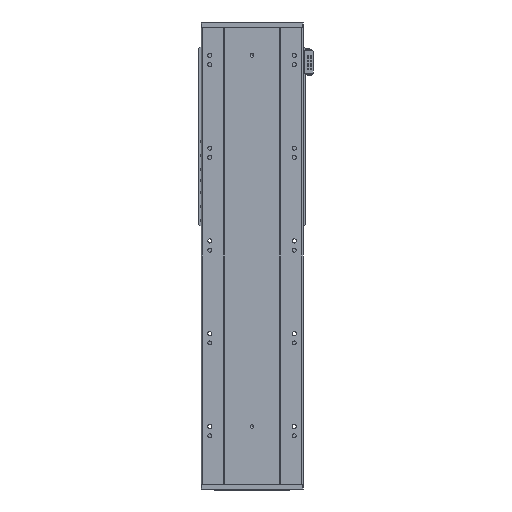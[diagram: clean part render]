
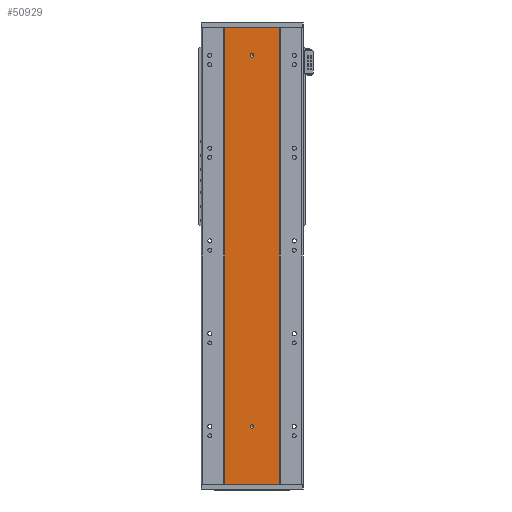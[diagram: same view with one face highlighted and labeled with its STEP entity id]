
A CAD part, front view. The second image highlights one B-rep face of the part: STEP entity #50929.
In plain terms, the highlighted planar face has unit normal (0, -1, 0).
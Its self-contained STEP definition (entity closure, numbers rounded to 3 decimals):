
#434 = VERTEX_POINT ( 'NONE', #12550 ) ;
#451 = CARTESIAN_POINT ( 'NONE',  ( 0., 0., 129. ) ) ;
#626 = VERTEX_POINT ( 'NONE', #9980 ) ;
#939 = VECTOR ( 'NONE', #4957, 1000. ) ;
#1655 = CARTESIAN_POINT ( 'NONE',  ( 0., 0., 125. ) ) ;
#2944 = EDGE_CURVE ( 'NONE', #626, #38700, #55609, .T. ) ;
#3097 = DIRECTION ( 'NONE',  ( 0., 0., -1. ) ) ;
#3132 = CIRCLE ( 'NONE', #6970, 4. ) ;
#3765 = DIRECTION ( 'NONE',  ( 0., 0., 1. ) ) ;
#4150 = CARTESIAN_POINT ( 'NONE',  ( -60., 0., 985. ) ) ;
#4957 = DIRECTION ( 'NONE',  ( 0., 0., -1. ) ) ;
#6140 = DIRECTION ( 'NONE',  ( 0., 0., -1. ) ) ;
#6848 = CIRCLE ( 'NONE', #43298, 4. ) ;
#6970 = AXIS2_PLACEMENT_3D ( 'NONE', #8782, #18030, #17260 ) ;
#8048 = DIRECTION ( 'NONE',  ( 0., 0., -1. ) ) ;
#8782 = CARTESIAN_POINT ( 'NONE',  ( 0., 0., 125. ) ) ;
#9980 = CARTESIAN_POINT ( 'NONE',  ( -60., 0., 0. ) ) ;
#10055 = EDGE_LOOP ( 'NONE', ( #44894, #15012 ) ) ;
#10926 = EDGE_LOOP ( 'NONE', ( #26697, #47261, #38614, #17946 ) ) ;
#11863 = AXIS2_PLACEMENT_3D ( 'NONE', #30089, #42823, #3097 ) ;
#11985 = CARTESIAN_POINT ( 'NONE',  ( 0., 0., 925. ) ) ;
#12550 = CARTESIAN_POINT ( 'NONE',  ( 60., 0., 985. ) ) ;
#13180 = FACE_OUTER_BOUND ( 'NONE', #10926, .T. ) ;
#14113 = EDGE_CURVE ( 'NONE', #31465, #29371, #56409, .T. ) ;
#14797 = VECTOR ( 'NONE', #16796, 1000. ) ;
#14858 = DIRECTION ( 'NONE',  ( 0., 0., -1. ) ) ;
#15012 = ORIENTED_EDGE ( 'NONE', *, *, #18916, .F. ) ;
#16796 = DIRECTION ( 'NONE',  ( 1., 0., 0. ) ) ;
#17172 = DIRECTION ( 'NONE',  ( 0., 1., 0. ) ) ;
#17260 = DIRECTION ( 'NONE',  ( 0., 0., -1. ) ) ;
#17666 = ORIENTED_EDGE ( 'NONE', *, *, #40164, .F. ) ;
#17833 = LINE ( 'NONE', #54340, #939 ) ;
#17946 = ORIENTED_EDGE ( 'NONE', *, *, #39317, .T. ) ;
#18030 = DIRECTION ( 'NONE',  ( 0., -1., 0. ) ) ;
#18687 = CARTESIAN_POINT ( 'NONE',  ( -60., 0., 0. ) ) ;
#18916 = EDGE_CURVE ( 'NONE', #29371, #31465, #6848, .T. ) ;
#22403 = EDGE_CURVE ( 'NONE', #434, #38700, #45222, .T. ) ;
#22412 = VERTEX_POINT ( 'NONE', #55731 ) ;
#25194 = EDGE_LOOP ( 'NONE', ( #51393, #17666 ) ) ;
#26436 = CARTESIAN_POINT ( 'NONE',  ( -60., 0., 985. ) ) ;
#26697 = ORIENTED_EDGE ( 'NONE', *, *, #2944, .T. ) ;
#26830 = VECTOR ( 'NONE', #45378, 1000. ) ;
#26931 = CARTESIAN_POINT ( 'NONE',  ( 60., 0., 0. ) ) ;
#29371 = VERTEX_POINT ( 'NONE', #35966 ) ;
#30089 = CARTESIAN_POINT ( 'NONE',  ( 0., 0., 925. ) ) ;
#30381 = PLANE ( 'NONE',  #41214 ) ;
#30523 = VECTOR ( 'NONE', #14858, 1000. ) ;
#31465 = VERTEX_POINT ( 'NONE', #39797 ) ;
#32908 = FACE_BOUND ( 'NONE', #10055, .T. ) ;
#35966 = CARTESIAN_POINT ( 'NONE',  ( 0., 0., 929. ) ) ;
#38614 = ORIENTED_EDGE ( 'NONE', *, *, #56394, .F. ) ;
#38700 = VERTEX_POINT ( 'NONE', #26931 ) ;
#39317 = EDGE_CURVE ( 'NONE', #53938, #626, #17833, .T. ) ;
#39797 = CARTESIAN_POINT ( 'NONE',  ( 0., 0., 921. ) ) ;
#40164 = EDGE_CURVE ( 'NONE', #52087, #22412, #57804, .T. ) ;
#41214 = AXIS2_PLACEMENT_3D ( 'NONE', #4150, #17172, #3765 ) ;
#41569 = LINE ( 'NONE', #26436, #14797 ) ;
#42823 = DIRECTION ( 'NONE',  ( 0., -1., 0. ) ) ;
#43298 = AXIS2_PLACEMENT_3D ( 'NONE', #11985, #52458, #8048 ) ;
#44168 = FACE_BOUND ( 'NONE', #25194, .T. ) ;
#44894 = ORIENTED_EDGE ( 'NONE', *, *, #14113, .F. ) ;
#45213 = AXIS2_PLACEMENT_3D ( 'NONE', #1655, #46269, #6140 ) ;
#45222 = LINE ( 'NONE', #50624, #30523 ) ;
#45378 = DIRECTION ( 'NONE',  ( 1., 0., 0. ) ) ;
#46269 = DIRECTION ( 'NONE',  ( 0., -1., 0. ) ) ;
#47261 = ORIENTED_EDGE ( 'NONE', *, *, #22403, .F. ) ;
#50624 = CARTESIAN_POINT ( 'NONE',  ( 60., 0., 985. ) ) ;
#50929 = ADVANCED_FACE ( 'NONE', ( #32908, #44168, #13180 ), #30381, .F. ) ;
#51393 = ORIENTED_EDGE ( 'NONE', *, *, #52897, .F. ) ;
#52087 = VERTEX_POINT ( 'NONE', #451 ) ;
#52458 = DIRECTION ( 'NONE',  ( 0., -1., 0. ) ) ;
#52897 = EDGE_CURVE ( 'NONE', #22412, #52087, #3132, .T. ) ;
#53938 = VERTEX_POINT ( 'NONE', #54254 ) ;
#54254 = CARTESIAN_POINT ( 'NONE',  ( -60., 0., 985. ) ) ;
#54340 = CARTESIAN_POINT ( 'NONE',  ( -60., 0., 985. ) ) ;
#55609 = LINE ( 'NONE', #18687, #26830 ) ;
#55731 = CARTESIAN_POINT ( 'NONE',  ( 0., 0., 121. ) ) ;
#56394 = EDGE_CURVE ( 'NONE', #53938, #434, #41569, .T. ) ;
#56409 = CIRCLE ( 'NONE', #11863, 4. ) ;
#57804 = CIRCLE ( 'NONE', #45213, 4. ) ;
